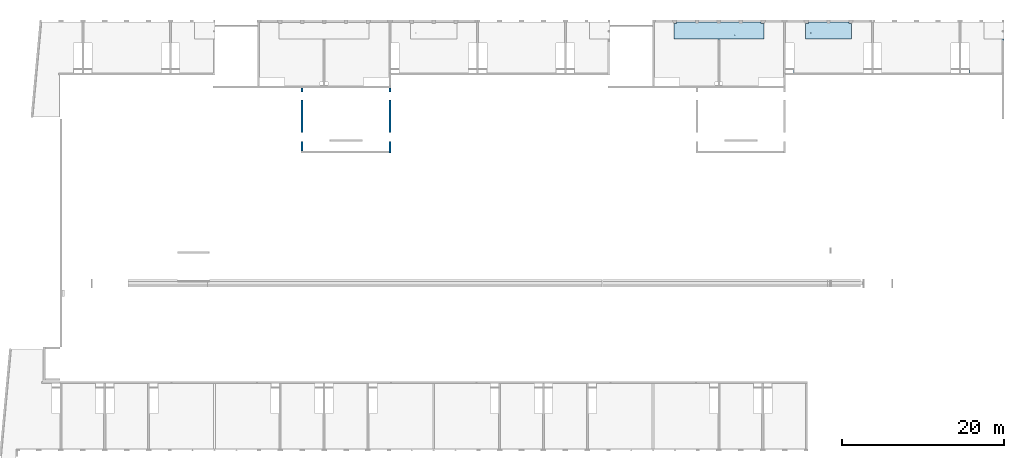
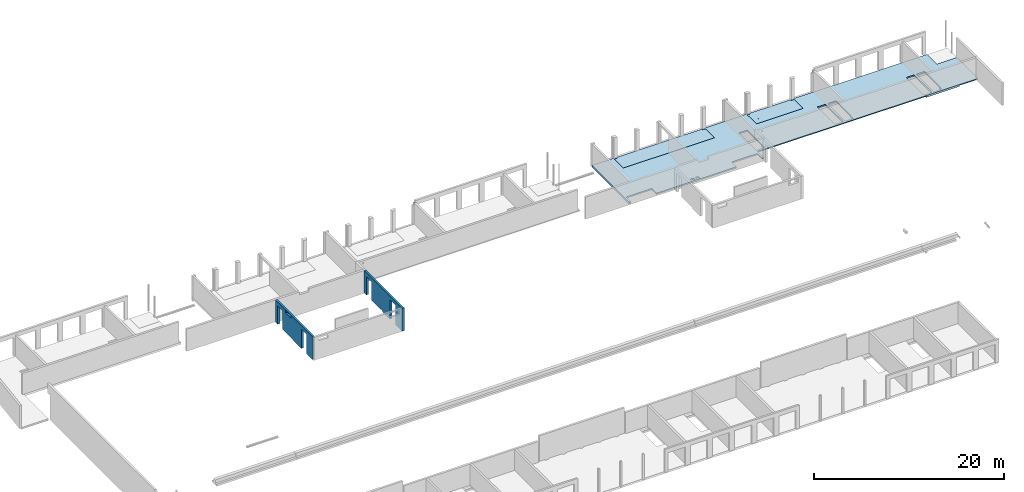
# One storey, part 21 of 22: 3 slabs, 2 walls.
"""IFC2X3 building model written with IfcOpenShell, lengths in millimetres."""

from ifc_helpers import new_model, entity, si_unit, converted_unit, derived_unit, direction, frame, origin, place, context, subcontext, project, spatial, faceted_brep, material, layer, layer_set, type_object, element, save


model = new_model("IFC2X3")

# Units and contexts
model_context = context("Model", 3, precision=0.01, world=origin(), true_north=direction((6.12303176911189e-17, 1.0)))
body_context = subcontext(model_context, "Body", "Model", "MODEL_VIEW")
ifc_project = project(units=[si_unit("LENGTHUNIT", "METRE", prefix="MILLI"), si_unit("AREAUNIT", "SQUARE_METRE"), si_unit("VOLUMEUNIT", "CUBIC_METRE"), converted_unit("PLANEANGLEUNIT", "DEGREE", entity("IfcRatioMeasure", 0.0174532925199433), si_unit("PLANEANGLEUNIT", "RADIAN"), dimensions=[0, 0, 0, 0, 0, 0, 0]), si_unit("MASSUNIT", "GRAM", prefix="KILO"), derived_unit("MASSDENSITYUNIT", [(si_unit("MASSUNIT", "GRAM", prefix="KILO"), 1), (si_unit("LENGTHUNIT", "METRE"), -3)]), si_unit("TIMEUNIT", "SECOND"), si_unit("FREQUENCYUNIT", "HERTZ"), si_unit("THERMODYNAMICTEMPERATUREUNIT", "DEGREE_CELSIUS"), derived_unit("THERMALTRANSMITTANCEUNIT", [(si_unit("MASSUNIT", "GRAM", prefix="KILO"), 1), (si_unit("THERMODYNAMICTEMPERATUREUNIT", "KELVIN"), -1), (si_unit("TIMEUNIT", "SECOND"), -3)]), derived_unit("VOLUMETRICFLOWRATEUNIT", [(si_unit("LENGTHUNIT", "METRE"), 3), (si_unit("TIMEUNIT", "SECOND"), -1)]), si_unit("ELECTRICCURRENTUNIT", "AMPERE"), si_unit("ELECTRICVOLTAGEUNIT", "VOLT"), si_unit("POWERUNIT", "WATT"), si_unit("FORCEUNIT", "NEWTON", prefix="KILO"), si_unit("ILLUMINANCEUNIT", "LUX"), si_unit("LUMINOUSFLUXUNIT", "LUMEN"), si_unit("LUMINOUSINTENSITYUNIT", "CANDELA"), derived_unit("USERDEFINED", [(si_unit("MASSUNIT", "GRAM", prefix="KILO"), -1), (si_unit("LENGTHUNIT", "METRE"), -2), (si_unit("TIMEUNIT", "SECOND"), 3), (si_unit("LUMINOUSFLUXUNIT", "LUMEN"), 1)]), derived_unit("LINEARVELOCITYUNIT", [(si_unit("LENGTHUNIT", "METRE"), 1), (si_unit("TIMEUNIT", "SECOND"), -1)]), si_unit("PRESSUREUNIT", "PASCAL"), derived_unit("USERDEFINED", [(si_unit("LENGTHUNIT", "METRE"), -2), (si_unit("MASSUNIT", "GRAM", prefix="KILO"), 1), (si_unit("TIMEUNIT", "SECOND"), -2)])], contexts=[model_context])

# Site, building, storey
site_placement = place(None, origin())
site = spatial("IfcSite", under=ifc_project, at=site_placement, Name="Default", CompositionType="ELEMENT")
building_placement = place(site_placement, origin())
building = spatial("IfcBuilding", under=site, at=building_placement, Name="niet gebruiken", CompositionType="ELEMENT")
storey_placement = place(building_placement, frame((0.0, 0.0, 9630.0)))
storey = spatial("IfcBuildingStorey", under=building, at=storey_placement, Name="03 derde verdieping", CompositionType="ELEMENT", Elevation=9630.00000000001)

# Slabs
slab_1_placement = place(storey_placement, origin())
element("IfcSlab", 1, at=slab_1_placement, inside=storey, Name="Floor:NLRS_23.21_FL_breedplaat d=50/230_schil apart_gen", ObjectType="Floor:NLRS_23.21_FL_breedplaat d=50/230_schil apart_gen", PredefinedType="FLOOR", context=body_context, shape_type="Brep", body=[
    faceted_brep([(102785.0, 52866.0, -340.0), (102415.0, 52866.0, -340.0), (102415.0, 53006.0, -340.0), (102785.0, 53006.0, -340.0), (100105.0, 52846.0, -110.0), (100381.249999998, 51688.4759526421, -110.0), (100390.624999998, 51688.4759526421, -110.0), (99745.0, 52846.0, -110.0), (100400.0, 51688.4759526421, -110.0), (100409.374999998, 51688.4759526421, -110.0), (100418.749999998, 51688.4759526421, -110.0), (100423.437499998, 51680.3569644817, -110.0), (100428.124999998, 51672.2379763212, -110.0), (100432.812499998, 51664.1189881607, -110.0), (100437.499999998, 51656.0, -110.0), (105095.0, 52846.0, -110.0), (105095.0, 53006.0, -110.0), (100105.0, 53006.0, -110.0), (100376.051217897, 51679.471397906, -110.0), (100370.852435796, 51670.46684317, -110.0), (100366.676217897, 51663.2334215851, -110.0), (100362.499999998, 51656.0, -110.0), (99745.0, 50926.0, -110.0), (100367.187499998, 51647.8810118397, -110.0), (100371.874999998, 51639.7620236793, -110.0), (100376.562499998, 51631.6430355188, -110.0), (100381.249999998, 51623.5240473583, -110.0), (100390.624999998, 51623.5240473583, -110.0), (100400.0, 51623.5240473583, -110.0), (100409.374999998, 51623.5240473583, -110.0), (100418.749999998, 51623.5240473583, -110.0), (105455.0, 50926.0, -110.0), (105455.0, 52846.0, -110.0), (100433.323782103, 51648.7665784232, -110.0), (100428.124999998, 51639.7620236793, -110.0), (100423.437499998, 51631.6430355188, -110.0), (99745.0, 52846.0, -270.0), (99745.0, 50926.0, -270.0), (102415.0, 53006.0, -270.0), (100105.0, 53006.0, -270.0), (105095.0, 53006.0, -270.0), (102785.0, 53006.0, -270.0), (105455.0, 50926.0, -270.0), (105455.0, 52846.0, -270.0), (100105.0, 52846.0, -270.0), (105095.0, 52846.0, -270.0), (102415.0, 52866.0, -270.0), (100418.749999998, 51623.5240473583, -270.0), (100423.437499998, 51631.6430355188, -270.0), (102785.0, 52866.0, -270.0), (100428.124999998, 51639.7620236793, -270.0), (100432.812499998, 51647.8810118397, -270.0), (100437.499999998, 51656.0, -270.0), (100433.32378197, 51663.2334218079, -270.0), (100429.147563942, 51670.4668436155, -270.0), (100423.94878197, 51679.4713981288, -270.0), (100418.749999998, 51688.4759526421, -270.0), (100409.374999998, 51623.5240473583, -270.0), (100400.0, 51623.5240473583, -270.0), (100390.624999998, 51623.5240473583, -270.0), (100381.249999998, 51623.5240473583, -270.0), (100376.051217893, 51632.528602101, -270.0), (100370.852435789, 51641.5331568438, -270.0), (100366.676217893, 51648.766578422, -270.0), (100362.499999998, 51656.0, -270.0), (100381.249999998, 51688.4759526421, -270.0), (100376.562499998, 51680.3569644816, -270.0), (100371.874999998, 51672.2379763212, -270.0), (100367.187499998, 51664.1189881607, -270.0), (100409.374999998, 51688.4759526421, -270.0), (100400.0, 51688.4759526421, -270.0), (100390.624999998, 51688.4759526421, -270.0)], [[[0, 1, 2, 3]], [[4, 5, 6]], [[4, 7, 5]], [[4, 6, 8]], [[4, 8, 9]], [[4, 9, 10]], [[4, 10, 11]], [[4, 11, 12]], [[4, 12, 13]], [[4, 13, 14]], [[15, 4, 14]], [[15, 16, 4]], [[17, 4, 16]], [[7, 18, 5]], [[7, 19, 18]], [[7, 20, 19]], [[7, 21, 20]], [[21, 7, 22]], [[22, 23, 21]], [[22, 24, 23]], [[22, 25, 24]], [[22, 26, 25]], [[22, 27, 26]], [[22, 28, 27]], [[22, 29, 28]], [[22, 30, 29]], [[31, 30, 22]], [[32, 15, 31]], [[14, 31, 15]], [[31, 14, 33]], [[31, 33, 34]], [[31, 34, 35]], [[31, 35, 30]], [[36, 37, 22, 7]], [[38, 39, 17, 16, 40, 41, 3, 2]], [[42, 43, 32, 31]], [[37, 42, 31, 22]], [[44, 36, 7, 4]], [[43, 45, 15, 32]], [[39, 44, 4, 17]], [[45, 40, 16, 15]], [[46, 47, 48]], [[49, 47, 46]], [[46, 48, 50]], [[46, 50, 51]], [[46, 51, 52]], [[46, 52, 53]], [[46, 53, 54]], [[46, 54, 55]], [[46, 55, 56]], [[44, 46, 56]], [[44, 39, 46]], [[39, 38, 46]], [[47, 49, 42]], [[42, 49, 45]], [[49, 40, 45]], [[49, 41, 40]], [[45, 43, 42]], [[47, 42, 37]], [[37, 57, 47]], [[37, 58, 57]], [[37, 59, 58]], [[37, 60, 59]], [[37, 61, 60]], [[37, 62, 61]], [[37, 63, 62]], [[37, 64, 63]], [[36, 64, 37]], [[65, 36, 44]], [[36, 65, 66]], [[36, 66, 67]], [[36, 67, 68]], [[36, 68, 64]], [[44, 56, 69]], [[44, 69, 70]], [[44, 70, 71]], [[44, 71, 65]], [[46, 38, 2, 1]], [[49, 46, 1, 0]], [[41, 49, 0, 3]], [[61, 62, 63, 64, 21, 23, 24, 25, 26, 60]], [[28, 29, 30, 47, 57, 58, 59, 60, 26, 27]], [[47, 30, 35, 34, 33, 14, 52, 51, 50, 48]], [[54, 53, 52, 14, 13, 12, 11, 10, 56, 55]], [[9, 8, 6, 5, 65, 71, 70, 69, 56, 10]], [[66, 65, 5, 18, 19, 20, 21, 64, 68, 67]]]),
])
slab_2_placement = place(storey_placement, origin())
element("IfcSlab", 2, at=slab_2_placement, inside=storey, Name="Floor:NLRS_23.21_FL_breedplaat d=70/250_schil apart_gen", ObjectType="Floor:NLRS_23.21_FL_breedplaat d=70/250_schil apart_gen", PredefinedType="FLOOR", context=body_context, shape_type="Brep", body=[
    faceted_brep([(105115.0, 53006.0, -340.0), (105485.0, 53006.0, -340.0), (105485.0, 52866.0, -340.0), (105115.0, 52866.0, -340.0), (80900.0, 53006.0, -90.0), (80900.0, 45156.0, -90.0), (81150.0, 45156.0, -90.0), (81150.0, 46156.0, -90.0), (84250.0, 46156.0, -90.0), (84250.0, 45156.0, -90.0), (87515.0, 45156.0, -90.0), (87715.0, 45156.0, -90.0), (91265.0, 45156.0, -90.0), (91465.0, 45156.0, -90.0), (93975.0, 45156.0, -90.0), (93975.0, 46156.0, -90.0), (97075.0, 46156.0, -90.0), (97075.0, 45156.0, -90.0), (97325.0, 45156.0, -90.0), (97325.0, 46496.0, -90.0), (123950.0, 46496.0, -90.0), (124200.0, 46496.0, -90.0), (124200.0, 50926.0, -90.0), (121745.0, 50926.0, -90.0), (121745.0, 53006.0, -90.0), (107980.0, 53006.0, -90.0), (105095.0, 53006.0, -90.0), (105095.0, 52846.0, -90.0), (105455.0, 52846.0, -90.0), (105455.0, 50926.0, -90.0), (99745.0, 50926.0, -90.0), (99745.0, 52846.0, -90.0), (100105.0, 52846.0, -90.0), (100105.0, 53006.0, -90.0), (97200.0, 53006.0, -90.0), (94295.0, 53006.0, -90.0), (94295.0, 52846.0, -90.0), (94655.0, 52846.0, -90.0), (94655.0, 50926.0, -90.0), (83545.0, 50926.0, -90.0), (83545.0, 52846.0, -90.0), (83905.0, 52846.0, -90.0), (83905.0, 53006.0, -90.0), (119895.0, 47326.0, -90.0), (119895.0, 46746.0, -90.0), (118925.0, 46746.0, -90.0), (118925.0, 50426.0, -90.0), (119925.0, 50426.0, -90.0), (119925.0, 47326.0, -90.0), (98295.0, 47326.0, -90.0), (98295.0, 46746.0, -90.0), (97325.0, 46746.0, -90.0), (97325.0, 50426.0, -90.0), (98325.0, 50426.0, -90.0), (98325.0, 47326.0, -90.0), (118675.0, 46746.0, -90.0), (117705.0, 46746.0, -90.0), (117705.0, 47326.0, -90.0), (117675.0, 47326.0, -90.0), (117675.0, 50426.0, -90.0), (118675.0, 50426.0, -90.0), (107875.0, 46746.0, -90.0), (106905.0, 46746.0, -90.0), (106905.0, 47326.0, -90.0), (106875.0, 47326.0, -90.0), (106875.0, 50426.0, -90.0), (107875.0, 50426.0, -90.0), (88625.0, 45606.0, -90.0), (88975.0, 45606.0, -90.0), (88975.0, 45256.0, -90.0), (88625.0, 45256.0, -90.0), (89225.0, 45606.0, -90.0), (89575.0, 45606.0, -90.0), (89575.0, 45256.0, -90.0), (89225.0, 45256.0, -90.0), (109095.0, 47326.0, -90.0), (109095.0, 47146.0, -90.0), (109095.0, 46746.0, -90.0), (108125.0, 46746.0, -90.0), (108125.0, 47146.0, -90.0), (108125.0, 47326.0, -90.0), (108125.0, 50426.0, -90.0), (109125.0, 50426.0, -90.0), (109125.0, 47326.0, -90.0), (97075.0, 45156.0, -220.0), (97325.0, 45156.0, -220.0), (80900.0, 53006.0, -340.0), (80900.0, 45156.0, -340.0), (83905.0, 53006.0, -110.0), (83905.0, 53006.0, -270.0), (83885.0, 53006.0, -270.0), (83885.0, 53006.0, -340.0), (83515.0, 53006.0, -340.0), (83515.0, 53006.0, -270.0), (81130.0, 53006.0, -270.0), (81130.0, 53006.0, -340.0), (83545.0, 50926.0, -110.0), (83545.0, 50926.0, -270.0), (83545.0, 52846.0, -270.0), (83545.0, 52846.0, -110.0), (94655.0, 52846.0, -110.0), (94655.0, 52846.0, -270.0), (94655.0, 50926.0, -270.0), (94655.0, 50926.0, -110.0), (97200.0, 53006.0, -340.0), (97095.0, 53006.0, -340.0), (97095.0, 53006.0, -270.0), (94685.0, 53006.0, -270.0), (94685.0, 53006.0, -340.0), (94315.0, 53006.0, -340.0), (94315.0, 53006.0, -270.0), (94295.0, 53006.0, -270.0), (94295.0, 53006.0, -110.0), (100105.0, 53006.0, -110.0), (100105.0, 53006.0, -270.0), (100085.0, 53006.0, -270.0), (100085.0, 53006.0, -340.0), (99715.0, 53006.0, -340.0), (99715.0, 53006.0, -270.0), (97305.0, 53006.0, -270.0), (97305.0, 53006.0, -340.0), (99745.0, 50926.0, -110.0), (99745.0, 50926.0, -270.0), (99745.0, 52846.0, -270.0), (99745.0, 52846.0, -110.0), (105455.0, 50926.0, -110.0), (105455.0, 50926.0, -270.0), (105455.0, 52846.0, -110.0), (105455.0, 52846.0, -270.0), (121745.0, 53006.0, -110.0), (121745.0, 53006.0, -340.0), (107980.0, 53006.0, -340.0), (107895.0, 53006.0, -340.0), (107895.0, 53006.0, -270.0), (105485.0, 53006.0, -270.0), (105115.0, 53006.0, -270.0), (105095.0, 53006.0, -270.0), (105095.0, 53006.0, -110.0), (121745.0, 50926.0, -110.0), (121745.0, 50926.0, -270.0), (121745.0, 52986.0, -270.0), (121745.0, 52986.0, -340.0), (124200.0, 50926.0, -110.0), (124200.0, 50926.0, -340.0), (123970.0, 50926.0, -340.0), (123970.0, 50926.0, -270.0), (124200.0, 46496.0, -220.0), (124200.0, 46746.0, -220.0), (124200.0, 46746.0, -340.0), (97325.0, 46496.0, -220.0), (117880.0, 46496.0, -220.0), (117880.0, 46496.0, -340.0), (121930.0, 46496.0, -340.0), (121930.0, 46496.0, -220.0), (97325.0, 46056.0, -220.0), (93975.0, 46156.0, -270.0), (97075.0, 46156.0, -270.0), (97075.0, 46156.0, -220.0), (93975.0, 45156.0, -270.0), (81150.0, 46156.0, -270.0), (84250.0, 46156.0, -270.0), (84250.0, 45156.0, -270.0), (81150.0, 45156.0, -340.0), (81150.0, 46156.0, -340.0), (89205.0, 50926.0, -270.0), (89205.0, 50926.0, -340.0), (88995.0, 50926.0, -340.0), (88995.0, 50926.0, -270.0), (83905.0, 52846.0, -110.0), (83905.0, 52846.0, -270.0), (94295.0, 52846.0, -110.0), (94295.0, 52846.0, -270.0), (100105.0, 52846.0, -110.0), (100105.0, 52846.0, -270.0), (105095.0, 52846.0, -110.0), (105095.0, 52846.0, -270.0), (119895.0, 46746.0, -340.0), (119895.0, 47326.0, -340.0), (118925.0, 46746.0, -340.0), (118925.0, 50426.0, -340.0), (118925.0, 50426.0, -270.0), (118675.0, 46746.0, -340.0), (118675.0, 50426.0, -270.0), (118675.0, 50426.0, -340.0), (117880.0, 46746.0, -340.0), (117880.0, 46746.0, -220.0), (117705.0, 46746.0, -220.0), (117705.0, 46746.0, -340.0), (117705.0, 47326.0, -340.0), (109095.0, 47326.0, -340.0), (109095.0, 47146.0, -340.0), (109095.0, 46746.0, -340.0), (109095.0, 46746.0, -220.0), (108125.0, 46746.0, -220.0), (108125.0, 46746.0, -340.0), (108125.0, 47146.0, -340.0), (108125.0, 47326.0, -340.0), (108125.0, 50426.0, -340.0), (108125.0, 50426.0, -270.0), (107875.0, 50426.0, -270.0), (107875.0, 50426.0, -340.0), (107875.0, 46746.0, -340.0), (107875.0, 46746.0, -220.0), (106905.0, 46746.0, -220.0), (106905.0, 46746.0, -340.0), (106905.0, 47326.0, -340.0), (98295.0, 47326.0, -340.0), (98295.0, 46746.0, -340.0), (98295.0, 46746.0, -220.0), (97325.0, 46746.0, -220.0), (97325.0, 46746.0, -340.0), (97325.0, 50426.0, -340.0), (97325.0, 50426.0, -270.0), (98325.0, 50426.0, -270.0), (98325.0, 47326.0, -340.0), (98325.0, 47326.0, -270.0), (109125.0, 50426.0, -270.0), (109125.0, 47326.0, -340.0), (109125.0, 47326.0, -270.0), (106875.0, 50426.0, -270.0), (106875.0, 47326.0, -270.0), (106875.0, 47326.0, -340.0), (119925.0, 50426.0, -270.0), (119925.0, 47326.0, -340.0), (119925.0, 47326.0, -270.0), (117675.0, 50426.0, -270.0), (117675.0, 47326.0, -270.0), (117675.0, 47326.0, -340.0), (105115.0, 52866.0, -270.0), (105485.0, 52866.0, -270.0), (107895.0, 50426.0, -270.0), (106875.0, 46746.0, -270.0), (98325.0, 46746.0, -270.0), (97305.0, 50426.0, -270.0), (99715.0, 52866.0, -270.0), (100085.0, 52866.0, -270.0), (97305.0, 50426.0, -340.0), (98325.0, 46746.0, -340.0), (107895.0, 50426.0, -340.0), (106875.0, 46746.0, -340.0), (99715.0, 52866.0, -340.0), (100085.0, 52866.0, -340.0), (108105.0, 52986.0, -270.0), (118695.0, 52986.0, -270.0), (118695.0, 50426.0, -270.0), (117675.0, 46746.0, -270.0), (109125.0, 46746.0, -270.0), (108105.0, 50426.0, -270.0), (108105.0, 52986.0, -340.0), (118695.0, 52986.0, -340.0), (108105.0, 50426.0, -340.0), (109125.0, 46746.0, -340.0), (118695.0, 50426.0, -340.0), (117675.0, 46746.0, -340.0), (118905.0, 50426.0, -270.0), (118905.0, 52986.0, -270.0), (123970.0, 46746.0, -270.0), (121930.0, 46746.0, -270.0), (121930.0, 46726.0, -270.0), (119925.0, 46726.0, -270.0), (118905.0, 52986.0, -340.0), (118905.0, 50426.0, -340.0), (119925.0, 46726.0, -340.0), (121930.0, 46726.0, -340.0), (123970.0, 46746.0, -340.0), (94315.0, 52866.0, -270.0), (94685.0, 52866.0, -270.0), (97095.0, 46746.0, -270.0), (97075.0, 46746.0, -270.0), (89205.0, 45156.0, -270.0), (89205.0, 45256.0, -270.0), (89225.0, 45256.0, -270.0), (89575.0, 45256.0, -270.0), (89575.0, 45606.0, -270.0), (89225.0, 45606.0, -270.0), (89205.0, 45606.0, -270.0), (89205.0, 45606.0, -340.0), (97095.0, 46746.0, -340.0), (94685.0, 52866.0, -340.0), (94315.0, 52866.0, -340.0), (89205.0, 45256.0, -340.0), (89205.0, 45156.0, -310.0), (89205.0, 45156.0, -340.0), (89225.0, 45256.0, -340.0), (89225.0, 45606.0, -340.0), (97075.0, 46746.0, -220.0), (121930.0, 46746.0, -220.0), (83515.0, 52866.0, -270.0), (83885.0, 52866.0, -270.0), (88995.0, 45606.0, -270.0), (88975.0, 45606.0, -270.0), (88625.0, 45606.0, -270.0), (88625.0, 45256.0, -270.0), (88975.0, 45256.0, -270.0), (88995.0, 45256.0, -270.0), (88995.0, 45156.0, -270.0), (81130.0, 46156.0, -270.0), (88995.0, 45606.0, -340.0), (81130.0, 46156.0, -340.0), (83515.0, 52866.0, -340.0), (83885.0, 52866.0, -340.0), (88975.0, 45606.0, -340.0), (88995.0, 45256.0, -340.0), (88975.0, 45256.0, -340.0), (88995.0, 45156.0, -340.0)], [[[0, 1, 2, 3]], [[4, 5, 6, 7, 8, 9, 10, 11, 12, 13, 14, 15, 16, 17, 18, 19, 20, 21, 22, 23, 24, 25, 26, 27, 28, 29, 30, 31, 32, 33, 34, 35, 36, 37, 38, 39, 40, 41, 42], [43, 44, 45, 46, 47, 48], [49, 50, 51, 52, 53, 54], [55, 56, 57, 58, 59, 60], [61, 62, 63, 64, 65, 66], [67, 68, 69, 70], [71, 72, 73, 74], [75, 76, 77, 78, 79, 80, 81, 82, 83]], [[18, 17, 84, 85]], [[86, 87, 5, 4]], [[4, 42, 88, 89, 90, 91, 92, 93, 94, 95, 86]], [[40, 39, 96, 97, 98, 99]], [[38, 37, 100, 101, 102, 103]], [[35, 34, 104, 105, 106, 107, 108, 109, 110, 111, 112]], [[34, 33, 113, 114, 115, 116, 117, 118, 119, 120, 104]], [[31, 30, 121, 122, 123, 124]], [[30, 29, 125, 126, 122, 121]], [[29, 28, 127, 128, 126, 125]], [[26, 25, 24, 129, 130, 131, 132, 133, 134, 1, 0, 135, 136, 137]], [[24, 23, 138, 139, 140, 141, 130, 129]], [[23, 22, 142, 143, 144, 145, 139, 138]], [[22, 21, 146, 147, 148, 143, 142]], [[21, 20, 19, 149, 150, 151, 152, 153, 146]], [[19, 18, 85, 154, 149]], [[16, 15, 155, 156, 157]], [[15, 14, 158, 155]], [[17, 16, 157, 84]], [[8, 7, 159, 160]], [[9, 8, 160, 161]], [[162, 163, 159, 7, 6]], [[39, 38, 103, 102, 164, 165, 166, 167, 97, 96]], [[42, 41, 168, 169, 89, 88]], [[41, 40, 99, 98, 169, 168]], [[37, 36, 170, 171, 101, 100]], [[36, 35, 112, 111, 171, 170]], [[33, 32, 172, 173, 114, 113]], [[32, 31, 124, 123, 173, 172]], [[28, 27, 174, 175, 128, 127]], [[27, 26, 137, 136, 175, 174]], [[176, 44, 43, 177]], [[44, 176, 178, 45]], [[45, 178, 179, 180, 46]], [[181, 55, 60, 182, 183]], [[55, 181, 184, 185, 186, 56]], [[187, 188, 57, 56, 186]], [[189, 190, 191, 192, 77, 76, 75]], [[78, 77, 192, 193]], [[194, 195, 196, 197, 198, 81, 80, 79, 78, 193]], [[61, 66, 199, 200, 201, 202]], [[62, 61, 202, 203]], [[204, 205, 63, 62, 203]], [[206, 207, 208, 50, 49]], [[51, 50, 208, 209]], [[210, 211, 212, 52, 51, 209]], [[53, 52, 212, 213]], [[214, 206, 49, 54, 215]], [[54, 53, 213, 215]], [[82, 81, 198, 216]], [[217, 189, 75, 83, 218]], [[83, 82, 216, 218]], [[66, 65, 219, 199]], [[65, 64, 220, 219]], [[205, 221, 220, 64, 63]], [[47, 46, 180, 222]], [[223, 177, 43, 48, 224]], [[48, 47, 222, 224]], [[60, 59, 225, 182]], [[59, 58, 226, 225]], [[188, 227, 226, 58, 57]], [[228, 229, 134, 133, 230, 199, 219, 220, 231, 232, 215, 213, 212, 233, 119, 118, 234, 235, 115, 114, 173, 123, 122, 126, 128, 175, 136, 135]], [[233, 236, 120, 119]], [[236, 233, 212, 211]], [[214, 215, 232, 237]], [[238, 230, 133, 132]], [[230, 238, 200, 199]], [[220, 221, 239, 231]], [[240, 234, 118, 117]], [[235, 234, 240, 241]], [[235, 241, 116, 115]], [[3, 228, 135, 0]], [[229, 228, 3, 2]], [[229, 2, 1, 134]], [[242, 243, 244, 182, 225, 226, 245, 246, 218, 216, 198, 247]], [[243, 242, 248, 249]], [[242, 247, 250, 248]], [[250, 247, 198, 197]], [[217, 218, 246, 251]], [[244, 243, 249, 252]], [[244, 252, 183, 182]], [[226, 227, 253, 245]], [[254, 255, 140, 139, 145, 256, 257, 258, 259, 224, 222, 180]], [[255, 260, 141, 140]], [[255, 254, 261, 260]], [[261, 254, 180, 179]], [[259, 262, 223, 224]], [[262, 259, 258, 263]], [[145, 144, 264, 256]], [[265, 266, 107, 106, 267, 268, 156, 155, 158, 269, 270, 271, 272, 273, 274, 275, 164, 102, 101, 171, 111, 110]], [[275, 276, 165, 164]], [[106, 105, 277, 267]], [[266, 278, 108, 107]], [[266, 265, 279, 278]], [[279, 265, 110, 109]], [[280, 270, 269, 281, 282]], [[270, 280, 283, 271]], [[276, 275, 274, 284]], [[157, 285, 209, 208, 203, 202, 193, 192, 186, 185, 150, 149, 154, 85, 84]], [[209, 285, 268, 267, 277, 210]], [[285, 157, 156, 268]], [[286, 153, 152, 263, 258, 257]], [[147, 286, 257, 256, 264, 148]], [[150, 185, 184, 151]], [[287, 288, 90, 89, 169, 98, 97, 167, 289, 290, 291, 292, 293, 294, 295, 161, 160, 159, 296, 94, 93]], [[297, 289, 167, 166]], [[296, 298, 95, 94]], [[299, 287, 93, 92]], [[288, 287, 299, 300]], [[288, 300, 91, 90]], [[289, 297, 301, 290]], [[302, 294, 293, 303]], [[294, 302, 304, 295]], [[298, 296, 159, 163]], [[68, 67, 291, 290]], [[67, 70, 292, 291]], [[70, 69, 293, 292]], [[301, 303, 293, 69, 68, 290]], [[72, 71, 274, 273]], [[73, 72, 273, 272]], [[74, 73, 272, 271]], [[283, 284, 274, 71, 74, 271]], [[203, 208, 207, 237, 232, 231, 239, 204]], [[193, 202, 201, 194]], [[186, 192, 191, 251, 246, 245, 253, 187]], [[286, 147, 146, 153]], [[14, 13, 12, 11, 10, 9, 161, 295, 304, 282, 281, 269, 158]], [[5, 87, 162, 6]], [[117, 116, 241, 240]], [[109, 108, 278, 279]], [[92, 91, 300, 299]], [[165, 276, 284, 283, 280, 282, 304, 302, 303, 301, 297, 166]], [[144, 143, 148, 264]], [[211, 210, 277, 105, 104, 120, 236]], [[188, 187, 253, 227]], [[205, 204, 239, 221]], [[207, 206, 214, 237]], [[176, 177, 223, 262, 263, 152, 151, 184, 181, 183, 252, 249, 248, 250, 197, 196, 195, 194, 201, 200, 238, 132, 131, 130, 141, 260, 261, 179, 178]], [[191, 190, 189, 217, 251]], [[87, 86, 95, 298, 163, 162]]]),
])
slab_3_placement = place(storey_placement, origin())
element("IfcSlab", 3, at=slab_3_placement, inside=storey, Name="Floor:NLRS_23.21_FL_breedplaat d=50/230_schil apart_gen", ObjectType="Floor:NLRS_23.21_FL_breedplaat d=50/230_schil apart_gen", PredefinedType="FLOOR", context=body_context, shape_type="Brep", body=[
    faceted_brep([(89285.0, 53006.0, -340.0), (89285.0, 52866.0, -340.0), (89205.0, 52866.0, -340.0), (89205.0, 50926.0, -340.0), (88995.0, 50926.0, -340.0), (83545.0, 50926.0, -340.0), (83545.0, 52846.0, -340.0), (83905.0, 52846.0, -340.0), (83905.0, 53006.0, -340.0), (91615.0, 53006.0, -340.0), (91985.0, 53006.0, -340.0), (91985.0, 52866.0, -340.0), (91615.0, 52866.0, -340.0), (94655.0, 50926.0, -110.0), (91087.4999999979, 51406.0, -110.0), (91083.3237821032, 51398.7665784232, -110.0), (94295.0, 52846.0, -110.0), (94655.0, 52846.0, -110.0), (91078.1249999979, 51389.7620236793, -110.0), (91073.4374999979, 51381.6430355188, -110.0), (91068.7499999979, 51373.5240473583, -110.0), (91059.3749999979, 51373.5240473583, -110.0), (91050.0, 51373.5240473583, -110.0), (91040.6249999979, 51373.5240473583, -110.0), (91031.2499999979, 51373.5240473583, -110.0), (83545.0, 50926.0, -110.0), (91082.8124999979, 51414.1189881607, -110.0), (91078.1249999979, 51422.2379763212, -110.0), (91073.4374999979, 51430.3569644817, -110.0), (91068.7499999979, 51438.4759526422, -110.0), (94295.0, 53006.0, -110.0), (91059.3749999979, 51438.4759526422, -110.0), (91050.0, 51438.4759526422, -110.0), (91040.6249999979, 51438.4759526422, -110.0), (91031.2499999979, 51438.4759526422, -110.0), (83905.0, 53006.0, -110.0), (91026.0512178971, 51429.4713979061, -110.0), (91020.8524357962, 51420.46684317, -110.0), (91016.6762178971, 51413.2334215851, -110.0), (91012.4999999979, 51406.0, -110.0), (83905.0, 52846.0, -110.0), (83545.0, 52846.0, -110.0), (91017.1874999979, 51397.8810118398, -110.0), (91026.5624999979, 51381.6430355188, -110.0), (91021.8749999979, 51389.7620236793, -110.0), (94655.0, 50926.0, -270.0), (94655.0, 52846.0, -270.0), (83545.0, 50926.0, -270.0), (89205.0, 50926.0, -270.0), (83545.0, 52846.0, -270.0), (91615.0, 53006.0, -270.0), (89285.0, 53006.0, -270.0), (83905.0, 53006.0, -270.0), (94295.0, 53006.0, -270.0), (91985.0, 53006.0, -270.0), (94295.0, 52846.0, -270.0), (83905.0, 52846.0, -270.0), (91985.0, 52866.0, -270.0), (91087.4999999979, 51406.0, -270.0), (91082.8124999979, 51397.8810118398, -270.0), (91078.1249999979, 51389.7620236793, -270.0), (91073.4374999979, 51381.6430355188, -270.0), (91068.7499999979, 51373.5240473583, -270.0), (91059.3749999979, 51373.5240473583, -270.0), (91050.0, 51373.5240473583, -270.0), (91040.6249999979, 51373.5240473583, -270.0), (91031.2499999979, 51373.5240473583, -270.0), (91026.0512178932, 51382.5286021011, -270.0), (91020.8524357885, 51391.5331568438, -270.0), (91016.6762178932, 51398.766578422, -270.0), (91012.4999999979, 51406.0, -270.0), (89285.0, 52866.0, -270.0), (89205.0, 52866.0, -270.0), (91017.1874999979, 51414.1189881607, -270.0), (91021.8749999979, 51422.2379763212, -270.0), (91026.5624999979, 51430.3569644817, -270.0), (91031.2499999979, 51438.4759526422, -270.0), (91615.0, 52866.0, -270.0), (91068.7499999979, 51438.4759526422, -270.0), (91059.3749999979, 51438.4759526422, -270.0), (91050.0, 51438.4759526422, -270.0), (91040.6249999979, 51438.4759526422, -270.0), (91083.3237819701, 51413.2334218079, -270.0), (91079.1475639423, 51420.4668436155, -270.0), (91073.9487819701, 51429.4713981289, -270.0)], [[[0, 1, 2, 3, 4, 5, 6, 7, 8]], [[9, 10, 11, 12]], [[13, 14, 15]], [[14, 13, 16]], [[16, 13, 17]], [[13, 15, 18]], [[13, 18, 19]], [[13, 19, 20]], [[13, 20, 21]], [[13, 21, 22]], [[13, 22, 23]], [[13, 23, 24]], [[24, 25, 13]], [[16, 26, 14]], [[16, 27, 26]], [[16, 28, 27]], [[16, 29, 28]], [[30, 29, 16]], [[30, 31, 29]], [[30, 32, 31]], [[30, 33, 32]], [[30, 34, 33]], [[34, 30, 35]], [[35, 36, 34]], [[35, 37, 36]], [[35, 38, 37]], [[35, 39, 38]], [[39, 35, 40]], [[25, 39, 40]], [[40, 41, 25]], [[25, 42, 39]], [[25, 24, 43]], [[25, 43, 44]], [[25, 44, 42]], [[45, 46, 17, 13]], [[47, 5, 4, 3, 48, 45, 13, 25]], [[49, 6, 5, 47, 25, 41]], [[9, 50, 51, 0, 8, 52, 35, 30, 53, 54, 10]], [[55, 53, 30, 16]], [[46, 55, 16, 17]], [[56, 7, 6, 49, 41, 40]], [[8, 7, 56, 40, 35, 52]], [[54, 53, 57]], [[55, 57, 53]], [[55, 45, 57]], [[55, 46, 45]], [[45, 58, 57]], [[45, 59, 58]], [[45, 60, 59]], [[45, 61, 60]], [[45, 62, 61]], [[45, 48, 62]], [[48, 63, 62]], [[48, 64, 63]], [[48, 65, 64]], [[48, 66, 65]], [[48, 67, 66]], [[48, 68, 67]], [[48, 69, 68]], [[48, 70, 69]], [[70, 48, 71]], [[72, 71, 48]], [[71, 73, 70]], [[71, 74, 73]], [[71, 75, 74]], [[71, 76, 75]], [[71, 77, 76]], [[71, 50, 77]], [[50, 71, 51]], [[77, 57, 78]], [[77, 78, 79]], [[77, 79, 80]], [[77, 80, 81]], [[77, 81, 76]], [[57, 58, 82]], [[57, 82, 83]], [[57, 83, 84]], [[57, 84, 78]], [[48, 3, 2, 72]], [[57, 11, 10, 54]], [[57, 77, 12, 11]], [[71, 72, 2, 1]], [[77, 50, 9, 12]], [[71, 1, 0, 51]], [[67, 68, 69, 70, 39, 42, 44, 43, 24, 66]], [[22, 21, 20, 62, 63, 64, 65, 66, 24, 23]], [[62, 20, 19, 18, 15, 14, 58, 59, 60, 61]], [[83, 82, 58, 14, 26, 27, 28, 29, 78, 84]], [[31, 32, 33, 34, 76, 81, 80, 79, 78, 29]], [[75, 76, 34, 36, 37, 38, 39, 70, 73, 74]]]),
])

# Walls
ifc_material = material(Name="NLRS_f2_beton ihwg")
ifc_layer = layer(ifc_material, 250.0)
ifc_layer_set = layer_set([ifc_layer], Name="Basic Wall:NLRS_22.21_WA_beton ihwg d=250_gen")
wall_type = type_object("IfcWallType", Name="Basic Wall:NLRS_22.21_WA_beton ihwg d=250_gen", PredefinedType="STANDARD", material=ifc_layer_set)
wall_1_placement = place(storey_placement, frame((48600.0, 36856.0, -310.0), z_axis=(0.0, 0.0, 1.0), x_axis=(0.0, 1.0, 0.0)))
element("IfcWall", 4, at=wall_1_placement, inside=storey, type_object=wall_type, Name="Basic Wall:NLRS_22.21_WA_beton ihwg d=250_gen", ObjectType="Basic Wall:NLRS_22.21_WA_beton ihwg d=250_gen", context=body_context, shape_type="Brep", body=[
    faceted_brep([(8050.0, -125.0, 2940.0), (7825.0, -125.0, 2940.0), (550.0, -125.0, 2940.0), (0.0, -125.0, 2940.0), (0.0, -125.0, 2590.0), (0.0, -125.0, 2490.0), (0.0, -125.0, 2380.0), (0.0, -125.0, 0.0), (1450.0, -125.0, 0.0), (1450.0, -125.0, 2495.0), (2580.0, -125.0, 2495.0), (2580.0, -125.0, 0.0), (4205.0, -125.0, 0.0), (4205.0, -125.0, 90.0), (4630.0, -125.0, 90.0), (5530.0, -125.0, 90.0), (6530.0, -125.0, 90.0), (6530.0, -125.0, 2470.0), (7555.0, -125.0, 2470.0), (7555.0, -125.0, 90.0), (8050.0, -125.0, 90.0), (0.0, 125.0, 2940.0), (250.0, 125.0, 2940.0), (8050.0, 125.0, 2940.0), (8050.0, 125.0, 90.0), (7555.0, 125.0, 90.0), (7555.0, 125.0, 2470.0), (6530.0, 125.0, 2470.0), (6530.0, 125.0, 90.0), (4205.0, 125.0, 90.0), (4205.0, 125.0, 0.0), (2580.0, 125.0, 0.0), (2580.0, 125.0, 2495.0), (1450.0, 125.0, 2495.0), (1450.0, 125.0, 0.0), (250.0, 125.0, 0.0), (0.0, 125.0, 0.0), (0.0, 125.0, 2380.0), (4205.0, 125.000150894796, 90.0)], [[[0, 1, 2, 3, 4, 5, 6, 7, 8, 9, 10, 11, 12, 13, 14, 15, 16, 17, 18, 19, 20]], [[21, 22, 23, 24, 25, 26, 27, 28, 29, 30, 31, 32, 33, 34, 35, 36, 37]], [[8, 7, 36, 35, 34]], [[3, 2, 1, 0, 23, 22, 21]], [[27, 17, 16, 28]], [[17, 27, 26, 18]], [[18, 26, 25, 19]], [[10, 32, 31, 11]], [[32, 10, 9, 33]], [[33, 9, 8, 34]], [[7, 6, 5, 4, 3, 21, 37, 36]], [[13, 29, 28, 16, 15, 14]], [[38, 13, 12, 30]], [[23, 0, 20, 24]], [[20, 19, 25, 24]], [[11, 31, 30, 12]]]),
])
wall_2_placement = place(storey_placement, frame((37800.0, 37106.0, -310.0), z_axis=(0.0, 0.0, 1.0), x_axis=(0.0, 1.0, 0.0)))
element("IfcWall", 5, at=wall_2_placement, inside=storey, type_object=wall_type, Name="Basic Wall:NLRS_22.21_WA_beton ihwg d=250_gen", ObjectType="Basic Wall:NLRS_22.21_WA_beton ihwg d=250_gen", context=body_context, shape_type="Brep", body=[
    faceted_brep([(6280.0, -125.0, 2470.0), (7305.0, -125.0, 2470.0), (7305.0, -125.0, 90.0), (7800.0, -125.0, 90.0), (7800.0, -125.0, 2940.0), (0.0, -125.0, 2940.0), (0.0, -125.0, 0.0), (1200.0, -125.0, 0.0), (1200.0, -125.0, 2495.0), (2330.0, -125.0, 2495.0), (2330.0, -125.0, 0.0), (3955.0, -125.0, 0.0), (3955.0, -125.0, 90.0), (6280.0, -125.0, 90.0), (4550.0, -125.0, 2930.0), (5650.0, -125.0, 2930.0), (5650.0, -125.0, 2580.0), (4550.0, -125.0, 2580.0), (7305.0, 125.0, 2470.0), (6280.0, 125.0, 2470.0), (6280.0, 125.0, 90.0), (5280.0, 125.0, 90.0), (4380.0, 125.0, 90.0), (3955.0, 125.0, 90.0), (3955.0, 125.0, 0.0), (2330.0, 125.0, 0.0), (2330.0, 125.0, 2495.0), (1200.0, 125.0, 2495.0), (1200.0, 125.0, 0.0), (0.0, 125.0, 0.0), (0.0, 125.0, 2940.0), (300.0, 125.0, 2940.0), (7800.0, 125.0, 2940.0), (7800.0, 125.0, 90.0), (7305.0, 125.0, 90.0), (5650.0, 125.0, 2930.0), (4550.0, 125.0, 2930.0), (4550.0, 125.0, 2580.0), (5650.0, 125.0, 2580.0)], [[[0, 1, 2, 3, 4, 5, 6, 7, 8, 9, 10, 11, 12, 13], [14, 15, 16, 17]], [[18, 19, 20, 21, 22, 23, 24, 25, 26, 27, 28, 29, 30, 31, 32, 33, 34], [35, 36, 37, 38]], [[7, 6, 29, 28]], [[30, 5, 4, 32, 31]], [[19, 0, 13, 20]], [[0, 19, 18, 1]], [[1, 18, 34, 2]], [[9, 26, 25, 10]], [[26, 9, 8, 27]], [[27, 8, 7, 28]], [[6, 5, 30, 29]], [[4, 3, 33, 32]], [[3, 2, 34, 33]], [[23, 12, 11, 24]], [[35, 15, 14, 36]], [[37, 17, 16, 38]], [[36, 14, 17, 37]], [[15, 35, 38, 16]], [[12, 23, 22, 21, 20, 13]], [[10, 25, 24, 11]]]),
])

save(model, "model.ifc")
